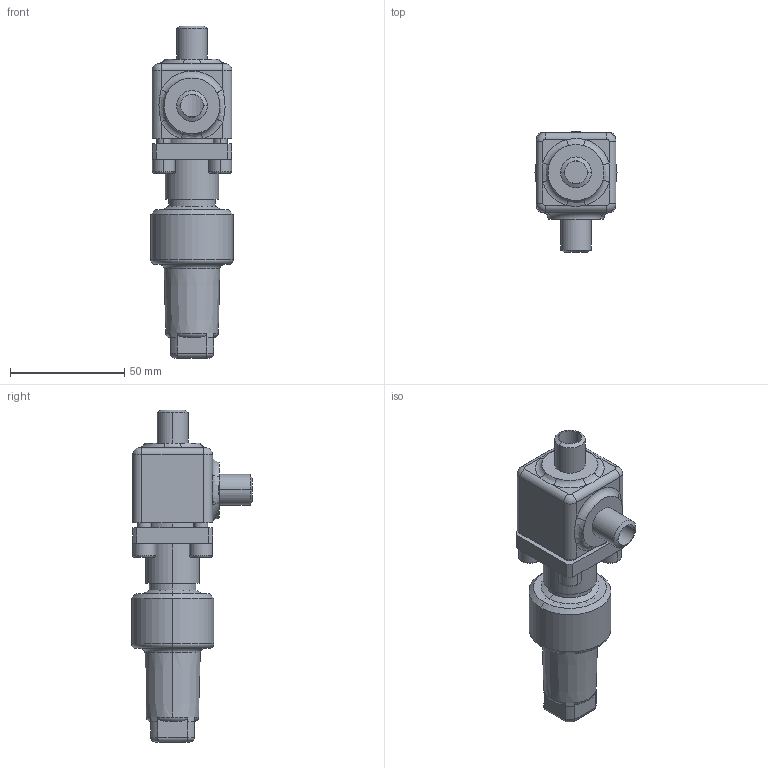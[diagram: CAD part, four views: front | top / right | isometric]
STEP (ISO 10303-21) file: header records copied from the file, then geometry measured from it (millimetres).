
FILE_DESCRIPTION (( 'STEP AP214' ), '1' );
FILE_NAME ('AVR96400-DN008_R1_PS40.STEP', '2006-05-02T08:00:00', ( 'Herr Grams' ), ( 'AWP GmbH' ), 'SwSTEP 2.0', 'SolidWorks 2002296', '' );
FILE_SCHEMA (( 'AUTOMOTIVE_DESIGN' ));
Length unit declared in the file: millimetre
Products named in the file (6): AVR96400-DN008_R1_PS40; Kappe96300E10_DN6-20_Standard; AVR96300E10_Deck+Schr-DN6-15_Standard; Deckel96300E10-DN6-15_PS40_Standard; Zylinderschraube-DIN912_M 6x 18; Gehäuse96400E07-DN08_PS40_R1_Standard
Assembly tree (8 placements, depth 3):
  AVR96400-DN008_R1_PS40
    AVR96300E10_Deck+Schr-DN6-15_Standard
      Zylinderschraube-DIN912_M 6x 18  x4
      Deckel96300E10-DN6-15_PS40_Standard
    Kappe96300E10_DN6-20_Standard
    Gehäuse96400E07-DN08_PS40_R1_Standard
Bounding box: 36 x 53 x 145.5 mm (x, y, z)
Volume: 90785.1 mm3; surface area: 31120 mm2
Topology: 7 solids, 7 shells, 231 faces, 512 edges, 315 vertices
Faces by surface type: cylinder 84, plane 82, torus 34, cone 24, bspline 7
Entity records: 10120 total; most frequent: CARTESIAN_POINT 5352, DIRECTION 937, ORIENTED_EDGE 796, EDGE_CURVE 398, AXIS2_PLACEMENT_3D 394, VERTEX_POINT 243, CIRCLE 212, EDGE_LOOP 203
